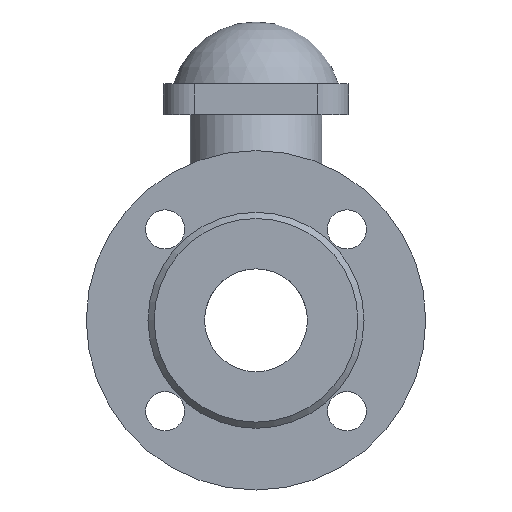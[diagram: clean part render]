
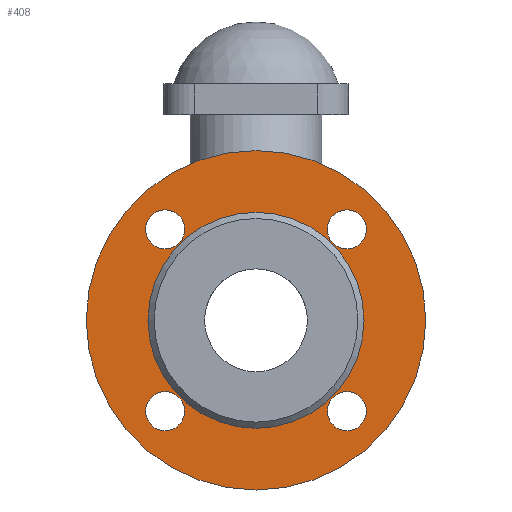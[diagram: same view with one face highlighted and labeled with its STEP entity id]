
A CAD part, front view. The second image highlights one B-rep face of the part: STEP entity #408.
In plain terms, the highlighted planar face has unit normal (0, -1, 0).
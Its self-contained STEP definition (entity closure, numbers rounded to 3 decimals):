
#408=ADVANCED_FACE('',(#1175,#1177,#1179,#1181,#1183,#1185),#1187,.T.);
#1175=FACE_BOUND('',#1176,.T.);
#1176=EDGE_LOOP('',(#1605));
#1177=FACE_BOUND('',#1178,.T.);
#1178=EDGE_LOOP('',(#1606));
#1179=FACE_BOUND('',#1180,.T.);
#1180=EDGE_LOOP('',(#1607));
#1181=FACE_BOUND('',#1182,.T.);
#1182=EDGE_LOOP('',(#1608));
#1183=FACE_BOUND('',#1184,.T.);
#1184=EDGE_LOOP('',(#1609));
#1185=FACE_BOUND('',#1186,.T.);
#1186=EDGE_LOOP('',(#1610));
#1187=PLANE('',#1188);
#1188=AXIS2_PLACEMENT_3D('',#1189,#1190,#1191);
#1189=CARTESIAN_POINT('',(0.,-97.,0.));
#1190=DIRECTION('',(0.,-1.,0.));
#1191=DIRECTION('',(0.,0.,1.));
#1605=ORIENTED_EDGE('',*,*,#1821,.F.);
#1606=ORIENTED_EDGE('',*,*,#1825,.T.);
#1607=ORIENTED_EDGE('',*,*,#1824,.T.);
#1608=ORIENTED_EDGE('',*,*,#1823,.T.);
#1609=ORIENTED_EDGE('',*,*,#1832,.T.);
#1610=ORIENTED_EDGE('',*,*,#1822,.T.);
#1821=EDGE_CURVE('',#2028,#2028,#2029,.T.);
#1822=EDGE_CURVE('',#2030,#2030,#2031,.F.);
#1823=EDGE_CURVE('',#2032,#2032,#2033,.F.);
#1824=EDGE_CURVE('',#2034,#2034,#2035,.F.);
#1825=EDGE_CURVE('',#2036,#2036,#2037,.F.);
#1832=EDGE_CURVE('',#2050,#2050,#2051,.T.);
#2028=VERTEX_POINT('',#2740);
#2029=CIRCLE('',#2741,82.5);
#2030=VERTEX_POINT('',#2745);
#2031=CIRCLE('',#2746,9.5);
#2032=VERTEX_POINT('',#2750);
#2033=CIRCLE('',#2751,9.5);
#2034=VERTEX_POINT('',#2755);
#2035=CIRCLE('',#2756,9.5);
#2036=VERTEX_POINT('',#2760);
#2037=CIRCLE('',#2761,9.5);
#2050=VERTEX_POINT('',#2795);
#2051=CIRCLE('',#2796,52.5);
#2740=CARTESIAN_POINT('',(0.,-97.,82.5));
#2741=AXIS2_PLACEMENT_3D('',#2742,#2743,#2744);
#2742=CARTESIAN_POINT('',(0.,-97.,0.));
#2743=DIRECTION('',(0.,1.,0.));
#2744=DIRECTION('',(0.,0.,1.));
#2745=CARTESIAN_POINT('',(-34.694,-97.,44.194));
#2746=AXIS2_PLACEMENT_3D('',#2747,#2748,#2749);
#2747=CARTESIAN_POINT('',(-44.194,-97.,44.194));
#2748=DIRECTION('',(0.,-1.,0.));
#2749=DIRECTION('',(1.,0.,0.));
#2750=CARTESIAN_POINT('',(-44.194,-97.,-34.694));
#2751=AXIS2_PLACEMENT_3D('',#2752,#2753,#2754);
#2752=CARTESIAN_POINT('',(-44.194,-97.,-44.194));
#2753=DIRECTION('',(0.,-1.,0.));
#2754=DIRECTION('',(0.,0.,1.));
#2755=CARTESIAN_POINT('',(34.694,-97.,-44.194));
#2756=AXIS2_PLACEMENT_3D('',#2757,#2758,#2759);
#2757=CARTESIAN_POINT('',(44.194,-97.,-44.194));
#2758=DIRECTION('',(0.,-1.,0.));
#2759=DIRECTION('',(-1.,0.,0.));
#2760=CARTESIAN_POINT('',(44.194,-97.,34.694));
#2761=AXIS2_PLACEMENT_3D('',#2762,#2763,#2764);
#2762=CARTESIAN_POINT('',(44.194,-97.,44.194));
#2763=DIRECTION('',(0.,-1.,0.));
#2764=DIRECTION('',(0.,0.,-1.));
#2795=CARTESIAN_POINT('',(0.,-97.,52.5));
#2796=AXIS2_PLACEMENT_3D('',#2797,#2798,#2799);
#2797=CARTESIAN_POINT('',(0.,-97.,0.));
#2798=DIRECTION('',(0.,1.,0.));
#2799=DIRECTION('',(0.,0.,1.));
